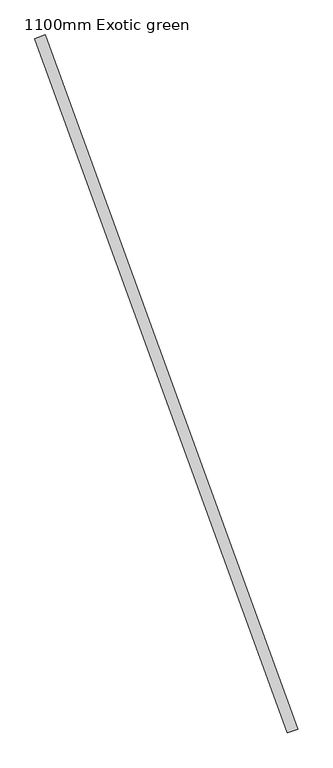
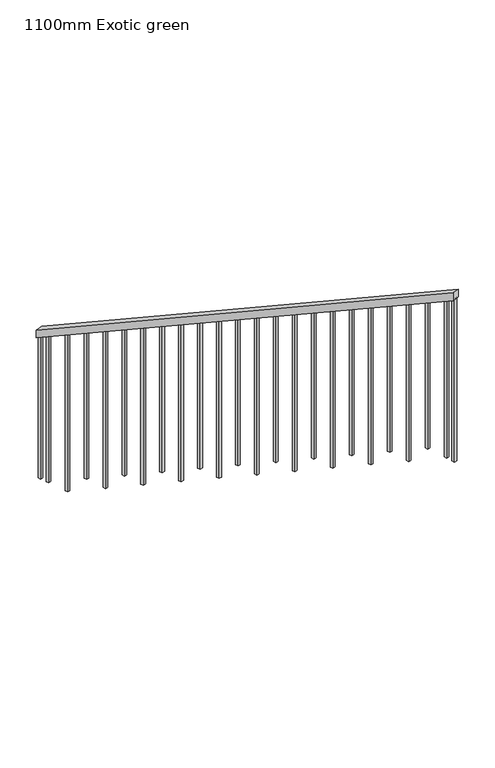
"""IFC4 building model written with IfcOpenShell, lengths in millimetres: railing geometry, 1100mm Exotic green."""

from ifc_helpers import new_model, si_unit, frame, origin, place, context, project, spatial, polyline, outline, extrude, source, transform, mapped, element, save


def railing_1100mm_exotic_green_fd042b7a(model_context):
    return source(origin(), model_context, "Body", "SweptSolid", [
        extrude(outline(polyline([(26.6666667, -50.0), (0.0, 0.0), (3740.0, 0.0), (3766.6666667, -50.0), (26.6666667, -50.0)])), frame((34473.2968952, 12218.071341, 5303.3333333), z_axis=(0.939692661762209, 0.3420200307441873, 0.0), x_axis=(0.3017823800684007, -0.8291405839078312, 0.4705882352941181)), (0.0, 0.0, 1.0), 50.0),
        extrude(outline(polyline([(105.3333333, 0.0), (1270.0, 0.0), (1270.0, -20.0), (94.6666667, -20.0), (105.3333333, 0.0)])), frame((35586.986684, 9202.0897339, 7130.0), z_axis=(0.9396926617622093, 0.34202003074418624, 0.0), x_axis=(0.0, 0.0, -1.0)), (0.0, 0.0, 1.0), 20.0),
        extrude(outline(polyline([(105.3333333, 0.0), (1190.0, 0.0), (1190.0, -20.0000001), (94.6666667, -20.0000001), (105.3333333, 0.0)])), frame((35535.6836794, 9343.0436332, 7050.0), z_axis=(0.9396926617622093, 0.34202003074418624, 0.0), x_axis=(0.0, 0.0, -1.0)), (0.0, 0.0, 1.0), 20.0),
        extrude(outline(polyline([(105.3333333, 0.0), (1270.0, 0.0), (1270.0, -20.0), (94.6666667, -20.0), (105.3333333, 0.0)])), frame((35484.3806747, 9483.9975324, 6970.0), z_axis=(0.9396926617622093, 0.34202003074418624, 0.0), x_axis=(0.0, 0.0, -1.0)), (0.0, 0.0, 1.0), 20.0),
        extrude(outline(polyline([(105.3333333, 0.0), (1190.0, 0.0), (1190.0, -20.0), (94.6666667, -20.0), (105.3333333, 0.0)])), frame((35433.0776701, 9624.9514317, 6890.0), z_axis=(0.9396926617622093, 0.34202003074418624, 0.0), x_axis=(0.0, 0.0, -1.0)), (0.0, 0.0, 1.0), 20.0),
        extrude(outline(polyline([(105.3333333, 0.0), (1270.0, 0.0), (1270.0, -20.0000001), (94.6666667, -20.0000001), (105.3333333, 0.0)])), frame((35381.7746655, 9765.905331, 6810.0), z_axis=(0.9396926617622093, 0.34202003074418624, 0.0), x_axis=(0.0, 0.0, -1.0)), (0.0, 0.0, 1.0), 20.0),
        extrude(outline(polyline([(105.3333333, 0.0), (1190.0, 0.0), (1190.0, -20.0), (94.6666667, -20.0), (105.3333333, 0.0)])), frame((35330.4716609, 9906.8592302, 6730.0), z_axis=(0.9396926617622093, 0.34202003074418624, 0.0), x_axis=(0.0, 0.0, -1.0)), (0.0, 0.0, 1.0), 20.0),
        extrude(outline(polyline([(105.3333333, 0.0), (1270.0, 0.0), (1270.0, -20.0000001), (94.6666667, -20.0000001), (105.3333333, 0.0)])), frame((35279.1686563, 10047.8131295, 6650.0), z_axis=(0.9396926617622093, 0.34202003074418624, 0.0), x_axis=(0.0, 0.0, -1.0)), (0.0, 0.0, 1.0), 20.0),
        extrude(outline(polyline([(105.3333333, 0.0), (1190.0, 0.0), (1190.0, -20.0), (94.6666667, -20.0), (105.3333333, 0.0)])), frame((35227.8656517, 10188.7670287, 6570.0), z_axis=(0.9396926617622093, 0.34202003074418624, 0.0), x_axis=(0.0, 0.0, -1.0)), (0.0, 0.0, 1.0), 20.0),
        extrude(outline(polyline([(105.3333333, 0.0), (1270.0, 0.0), (1270.0, -20.0), (94.6666667, -20.0), (105.3333333, 0.0)])), frame((35176.5626471, 10329.720928, 6490.0), z_axis=(0.9396926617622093, 0.34202003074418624, 0.0), x_axis=(0.0, 0.0, -1.0)), (0.0, 0.0, 1.0), 20.0),
        extrude(outline(polyline([(105.3333333, 0.0), (1190.0, 0.0), (1190.0, -20.0000001), (94.6666667, -20.0000001), (105.3333333, 0.0)])), frame((35125.2596425, 10470.6748273, 6410.0), z_axis=(0.9396926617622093, 0.34202003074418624, 0.0), x_axis=(0.0, 0.0, -1.0)), (0.0, 0.0, 1.0), 20.0),
        extrude(outline(polyline([(105.3333333, 0.0), (1270.0, 0.0), (1270.0, -20.0), (94.6666667, -20.0), (105.3333333, 0.0)])), frame((35073.9566379, 10611.6287265, 6330.0), z_axis=(0.9396926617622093, 0.34202003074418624, 0.0), x_axis=(0.0, 0.0, -1.0)), (0.0, 0.0, 1.0), 20.0),
        extrude(outline(polyline([(105.3333333, 0.0), (1190.0, 0.0), (1190.0, -20.0), (94.6666667, -20.0), (105.3333333, 0.0)])), frame((35022.6536332, 10752.5826258, 6250.0), z_axis=(0.9396926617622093, 0.34202003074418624, 0.0), x_axis=(0.0, 0.0, -1.0)), (0.0, 0.0, 1.0), 20.0),
        extrude(outline(polyline([(105.3333333, 0.0), (1270.0, 0.0), (1270.0, -20.0000001), (94.6666667, -20.0000001), (105.3333333, 0.0)])), frame((34971.3506286, 10893.5365251, 6170.0), z_axis=(0.9396926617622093, 0.34202003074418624, 0.0), x_axis=(0.0, 0.0, -1.0)), (0.0, 0.0, 1.0), 20.0),
        extrude(outline(polyline([(105.3333333, 0.0), (1190.0, 0.0), (1190.0, -20.0), (94.6666667, -20.0), (105.3333333, 0.0)])), frame((34920.047624, 11034.4904243, 6090.0), z_axis=(0.9396926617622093, 0.34202003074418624, 0.0), x_axis=(0.0, 0.0, -1.0)), (0.0, 0.0, 1.0), 20.0),
        extrude(outline(polyline([(105.3333333, 0.0), (1270.0, 0.0), (1270.0, -20.0), (94.6666667, -20.0), (105.3333333, 0.0)])), frame((34868.7446194, 11175.4443236, 6010.0), z_axis=(0.9396926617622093, 0.34202003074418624, 0.0), x_axis=(0.0, 0.0, -1.0)), (0.0, 0.0, 1.0), 20.0),
        extrude(outline(polyline([(105.3333333, 0.0), (1190.0, 0.0), (1190.0, -20.0000001), (94.6666667, -20.0000001), (105.3333333, 0.0)])), frame((34817.4416148, 11316.3982229, 5930.0), z_axis=(0.9396926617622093, 0.34202003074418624, 0.0), x_axis=(0.0, 0.0, -1.0)), (0.0, 0.0, 1.0), 20.0),
        extrude(outline(polyline([(105.3333333, 0.0), (1270.0, 0.0), (1270.0, -20.0), (94.6666667, -20.0), (105.3333333, 0.0)])), frame((34766.1386102, 11457.3521221, 5850.0), z_axis=(0.9396926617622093, 0.34202003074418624, 0.0), x_axis=(0.0, 0.0, -1.0)), (0.0, 0.0, 1.0), 20.0),
        extrude(outline(polyline([(105.3333333, 0.0), (1190.0, 0.0), (1190.0, -20.0), (94.6666667, -20.0), (105.3333333, 0.0)])), frame((34714.8356056, 11598.3060214, 5770.0), z_axis=(0.9396926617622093, 0.34202003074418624, 0.0), x_axis=(0.0, 0.0, -1.0)), (0.0, 0.0, 1.0), 20.0),
        extrude(outline(polyline([(105.3333333, 0.0), (1270.0, 0.0), (1270.0, -20.0000001), (94.6666667, -20.0000001), (105.3333333, 0.0)])), frame((34663.532601, 11739.2599207, 5690.0), z_axis=(0.9396926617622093, 0.34202003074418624, 0.0), x_axis=(0.0, 0.0, -1.0)), (0.0, 0.0, 1.0), 20.0),
        extrude(outline(polyline([(105.3333333, 0.0), (1190.0, 0.0), (1190.0, -20.0), (94.6666667, -20.0), (105.3333333, 0.0)])), frame((34612.2295963, 11880.2138199, 5610.0), z_axis=(0.9396926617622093, 0.34202003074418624, 0.0), x_axis=(0.0, 0.0, -1.0)), (0.0, 0.0, 1.0), 20.0),
        extrude(outline(polyline([(105.3333333, 0.0), (1270.0, 0.0), (1270.0, -20.0000001), (94.6666667, -20.0000001), (105.3333333, 0.0)])), frame((34560.9265917, 12021.1677192, 5530.0), z_axis=(0.9396926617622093, 0.34202003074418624, 0.0), x_axis=(0.0, 0.0, -1.0)), (0.0, 0.0, 1.0), 20.0),
        extrude(outline(polyline([(105.3333333, 0.0), (1190.0, 0.0), (1190.0, -20.0), (94.6666667, -20.0), (105.3333333, 0.0)])), frame((34509.6235871, 12162.1216184, 5450.0), z_axis=(0.9396926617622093, 0.34202003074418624, 0.0), x_axis=(0.0, 0.0, -1.0)), (0.0, 0.0, 1.0), 20.0),
        extrude(outline(polyline([(105.3333333, 0.0), (1303.3333333, 0.0), (1303.3333333, -20.0), (94.6666666, -20.0), (105.3333333, 0.0)])), frame((35608.3629359, 9143.3589425, 7163.3333333), z_axis=(0.9396926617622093, 0.34202003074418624, 0.0), x_axis=(0.0, 0.0, -1.0)), (0.0, 0.0, 1.0), 20.0),
        extrude(outline(polyline([(105.3333334, 0.0), (1156.6666667, 0.0), (1156.6666667, -20.0), (94.6666667, -20.0), (105.3333334, 0.0)])), frame((34488.2473352, 12220.8524098, 5416.6666667), z_axis=(0.9396926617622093, 0.34202003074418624, 0.0), x_axis=(0.0, 0.0, -1.0)), (0.0, 0.0, 1.0), 20.0),
    ])


if __name__ == "__main__":
    model = new_model("IFC4")
    model_context = context("Model", 3, world=origin())
    ifc_project = project(units=[si_unit("LENGTHUNIT", "METRE", prefix="MILLI")], contexts=[model_context])
    site = spatial("IfcSite", under=ifc_project)
    building = spatial("IfcBuilding", under=site)
    placement = place(None, origin())
    railing_1100mm_exotic_green_shape = railing_1100mm_exotic_green_fd042b7a(model_context)
    element("IfcRailing", 1, ObjectType="1100mm Exotic green", at=placement, inside=building, context=model_context, shape_type="MappedRepresentation", body=[
        mapped(railing_1100mm_exotic_green_shape, transform((0.0, 0.0, 0.0), x_axis=(1.0, 0.0, 0.0), y_axis=(0.0, 1.0, 0.0), z_axis=(0.0, 0.0, 1.0))),
    ])
    save(model, "model.ifc")
